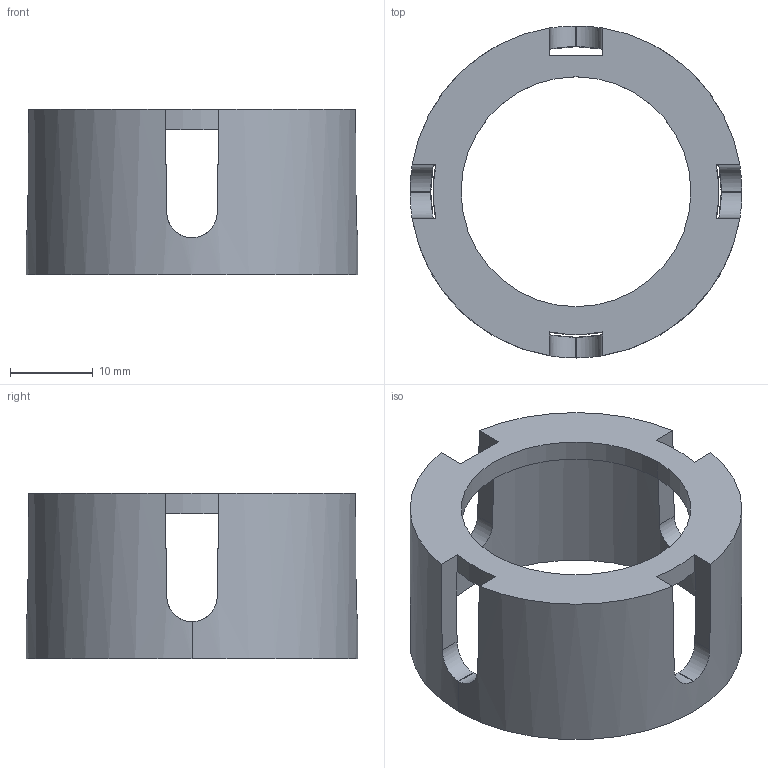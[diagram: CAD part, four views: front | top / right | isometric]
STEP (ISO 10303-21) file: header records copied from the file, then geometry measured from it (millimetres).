
FILE_DESCRIPTION (( 'STEP AP214' ), '1' );
FILE_NAME ('ZF_STEP_VE_GPx2AxA.STEP', '2014-06-23T12:39:22', ( 'utente' ), ( 'Microsoft' ), 'SwSTEP 2.0', 'SolidWorks 2013', '' );
FILE_SCHEMA (( 'AUTOMOTIVE_DESIGN' ));
Length unit declared in the file: millimetre
Products named in the file (1): ZF_STEP_VE_GPx2AxA
Bounding box: 40 x 40 x 20 mm (x, y, z)
Volume: 5827.2 mm3; surface area: 5615.2 mm2
Topology: 1 solids, 1 shells, 33 faces, 114 edges, 76 vertices
Faces by surface type: plane 16, cylinder 14, cone 3
Entity records: 1510 total; most frequent: CARTESIAN_POINT 530, ORIENTED_EDGE 228, DIRECTION 178, EDGE_CURVE 114, VERTEX_POINT 76, AXIS2_PLACEMENT_3D 68, VECTOR 42, LINE 42
